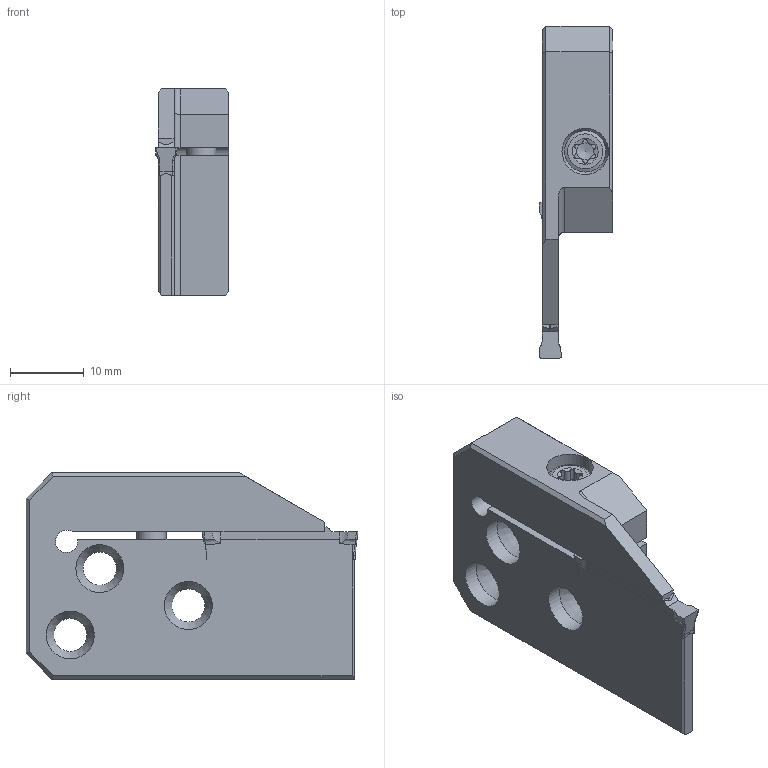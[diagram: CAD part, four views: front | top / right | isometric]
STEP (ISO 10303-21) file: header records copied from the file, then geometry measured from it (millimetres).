
FILE_DESCRIPTION(/* description */ (''),/* implementation_level */ '2;1');
FILE_NAME(/* name */ 'WEBDA_E00001771_00_Kunde.stp',/* time_stamp */ '2021-02-23T12:08:03+01:00',/* author */ (''),/* organization */ (''),/* preprocessor_version */ 'ST-DEVELOPER v16',/* originating_system */ 'SIEMENS PLM Software NX 11.0',/* authorisation */ '');
FILE_SCHEMA (('AUTOMOTIVE_DESIGN { 1 0 10303 214 3 1 1 1 }'));
Length unit declared in the file: millimetre
Products named in the file (1): ja.h69B0A29Eyy9s
Bounding box: 10 x 45 x 28 mm (x, y, z)
Volume: 7109.1 mm3; surface area: 4396.1 mm2
Topology: 1 solids, 1 shells, 119 faces, 327 edges, 210 vertices
Faces by surface type: plane 59, cylinder 43, cone 10, bspline 7
Full cylindrical faces by diameter (mm): 3.3 x1, 4 x1, 4.3 x1, 4.5 x3, 5.6 x1, 6.3 x1, 6.5 x3
Entity records: 4054 total; most frequent: CARTESIAN_POINT 1229, ORIENTED_EDGE 586, DIRECTION 539, EDGE_CURVE 293, AXIS2_PLACEMENT_3D 199, VERTEX_POINT 198, EDGE_LOOP 150, LINE 141
